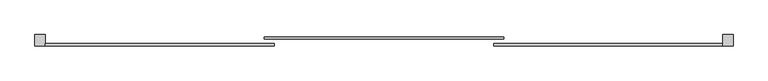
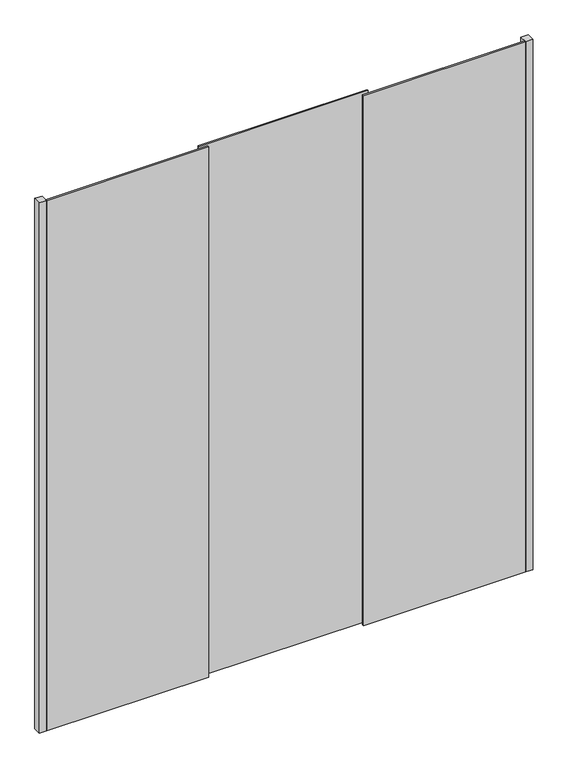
"""IFC4 building model written with IfcOpenShell, lengths in millimetres: furniture geometry, Puerta Closet corre 3 hojas : Puerta corrdiza 3 hojas PCL-07."""

from ifc_helpers import new_model, si_unit, origin, origin_with_axes, place, context, project, spatial, polyline, outline, extrude, source, transform, mapped, element, save


def furniture_f5ed3a1c(model_context):
    return source(origin(), model_context, "Body", "SweptSolid", [
        extrude(outline(polyline([(780.0, 86.6666667), (750.0, 86.6666667), (750.0, 120.0), (780.0, 120.0), (780.0, 86.6666667)])), origin_with_axes(), (0.0, 0.0, 1.0), 2350.0),
        extrude(outline(polyline([(750.0, 86.6666667), (70.0, 86.6666667), (70.0, 93.3333333), (750.0, 93.3333333), (750.0, 86.6666667)])), origin_with_axes(), (0.0, 0.0, 1.0), 2350.0),
        extrude(outline(polyline([(100.0, 106.6666667), (-610.0, 106.6666667), (-610.0, 113.3333333), (100.0, 113.3333333), (100.0, 106.6666667)])), origin_with_axes(), (0.0, 0.0, 1.0), 2350.0),
        extrude(outline(polyline([(-580.0, 86.6666667), (-1260.0, 86.6666667), (-1260.0, 93.3333333), (-580.0, 93.3333333), (-580.0, 86.6666667)])), origin_with_axes(), (0.0, 0.0, 1.0), 2350.0),
        extrude(outline(polyline([(-1290.0, 86.6666667), (-1290.0, 120.0), (-1260.0, 120.0), (-1260.0, 86.6666667), (-1290.0, 86.6666667)])), origin_with_axes(), (0.0, 0.0, 1.0), 2350.0),
    ])


if __name__ == "__main__":
    model = new_model("IFC4")
    model_context = context("Model", 3, world=origin())
    ifc_project = project(units=[si_unit("LENGTHUNIT", "METRE", prefix="MILLI")], contexts=[model_context])
    site = spatial("IfcSite", under=ifc_project)
    building = spatial("IfcBuilding", under=site)
    placement = place(None, origin())
    furniture_shape = furniture_f5ed3a1c(model_context)
    element("IfcFurniture", 1, ObjectType="Puerta Closet corre 3 hojas : Puerta corrdiza 3 hojas PCL-07", at=placement, inside=building, context=model_context, shape_type="MappedRepresentation", body=[
        mapped(furniture_shape, transform((0.0, 0.0, 0.0), x_axis=(1.0, 0.0, 0.0), y_axis=(0.0, 1.0, 0.0), z_axis=(0.0, 0.0, 1.0))),
    ])
    save(model, "model.ifc")
